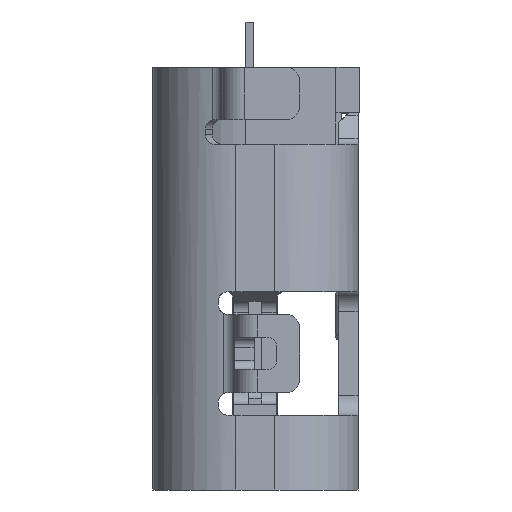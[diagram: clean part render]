
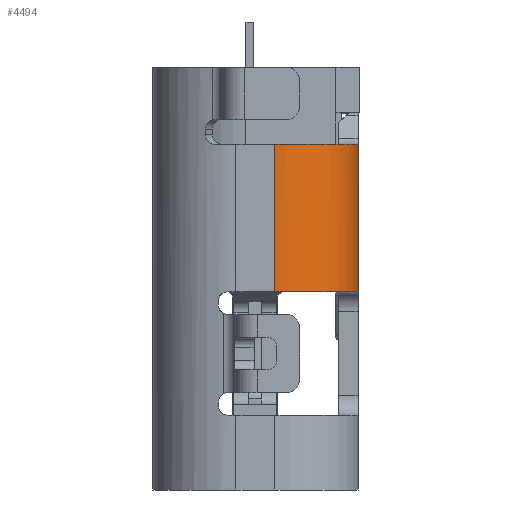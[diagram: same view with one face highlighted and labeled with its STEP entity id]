
A CAD part, left-side view. The second image highlights one B-rep face of the part: STEP entity #4494.
In plain terms, the highlighted cylindrical face has radius 1.28 mm (diameter 2.56 mm), a partial arc.
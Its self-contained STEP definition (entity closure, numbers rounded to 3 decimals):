
#191 = ORIENTED_EDGE ( 'NONE', *, *, #11314, .F. ) ;
#217 = DIRECTION ( 'NONE',  ( 0., 0., 1. ) ) ;
#621 = CARTESIAN_POINT ( 'NONE',  ( -4.145, -1.157, -5.388 ) ) ;
#933 = B_SPLINE_CURVE_WITH_KNOTS ( 'NONE', 3,
 ( #22131, #31201, #25469, #33616, #27876, #13797 ),
 .UNSPECIFIED., .F., .F.,
 ( 4, 2, 4 ),
 ( 0., 0.5, 1. ),
 .UNSPECIFIED. ) ;
#981 = CIRCLE ( 'NONE', #7449, 1.28 ) ;
#1531 = EDGE_CURVE ( 'NONE', #10261, #2401, #981, .T. ) ;
#2401 = VERTEX_POINT ( 'NONE', #27523 ) ;
#3170 = VERTEX_POINT ( 'NONE', #3754 ) ;
#3549 = CYLINDRICAL_SURFACE ( 'NONE', #8812, 1.28 ) ;
#3754 = CARTESIAN_POINT ( 'NONE',  ( -4.47, -0.305, -5.388 ) ) ;
#4178 = LINE ( 'NONE', #6950, #19488 ) ;
#4358 = CARTESIAN_POINT ( 'NONE',  ( -4.145, -1.157, -5.388 ) ) ;
#4494 = ADVANCED_FACE ( 'NONE', ( #18171 ), #3549, .T. ) ;
#5516 = ORIENTED_EDGE ( 'NONE', *, *, #35979, .T. ) ;
#6510 = DIRECTION ( 'NONE',  ( 0., 0., 1. ) ) ;
#6642 = EDGE_CURVE ( 'NONE', #13016, #2401, #4178, .T. ) ;
#6950 = CARTESIAN_POINT ( 'NONE',  ( -3.19, -1.585, -8.408 ) ) ;
#7449 = AXIS2_PLACEMENT_3D ( 'NONE', #9108, #6510, #31699 ) ;
#8571 = B_SPLINE_CURVE_WITH_KNOTS ( 'NONE', 3,
 ( #621, #35016, #12605, #15022 ),
 .UNSPECIFIED., .F., .F.,
 ( 4, 4 ),
 ( 0., 1. ),
 .UNSPECIFIED. ) ;
#8812 = AXIS2_PLACEMENT_3D ( 'NONE', #35380, #15016, #21323 ) ;
#8818 = EDGE_CURVE ( 'NONE', #13016, #35838, #933, .T. ) ;
#9108 = CARTESIAN_POINT ( 'NONE',  ( -3.19, -0.305, -7.658 ) ) ;
#10261 = VERTEX_POINT ( 'NONE', #11629 ) ;
#10432 = VECTOR ( 'NONE', #217, 1000. ) ;
#10921 = ORIENTED_EDGE ( 'NONE', *, *, #8818, .T. ) ;
#11305 = CARTESIAN_POINT ( 'NONE',  ( -4.47, -0.305, -7.108 ) ) ;
#11314 = EDGE_CURVE ( 'NONE', #10261, #3170, #19821, .T. ) ;
#11629 = CARTESIAN_POINT ( 'NONE',  ( -4.47, -0.305, -7.658 ) ) ;
#11892 = CARTESIAN_POINT ( 'NONE',  ( -4.059, -1.245, -5.388 ) ) ;
#12134 = B_SPLINE_CURVE_WITH_KNOTS ( 'NONE', 3,
 ( #29372, #26421, #23106, #29195 ),
 .UNSPECIFIED., .F., .F.,
 ( 4, 4 ),
 ( 0., 1. ),
 .UNSPECIFIED. ) ;
#12605 = CARTESIAN_POINT ( 'NONE',  ( -4.47, -0.616, -5.388 ) ) ;
#13016 = VERTEX_POINT ( 'NONE', #27478 ) ;
#13797 = CARTESIAN_POINT ( 'NONE',  ( -4.059, -1.245, -5.388 ) ) ;
#15016 = DIRECTION ( 'NONE',  ( 0., 0., -1. ) ) ;
#15022 = CARTESIAN_POINT ( 'NONE',  ( -4.47, -0.305, -5.388 ) ) ;
#18171 = FACE_OUTER_BOUND ( 'NONE', #18560, .T. ) ;
#18451 = DIRECTION ( 'NONE',  ( 0., 0., -1. ) ) ;
#18560 = EDGE_LOOP ( 'NONE', ( #10921, #32074, #5516, #191, #24211, #31062 ) ) ;
#19488 = VECTOR ( 'NONE', #18451, 1000. ) ;
#19821 = LINE ( 'NONE', #11305, #10432 ) ;
#21323 = DIRECTION ( 'NONE',  ( -1., 0., 0. ) ) ;
#22131 = CARTESIAN_POINT ( 'NONE',  ( -3.19, -1.585, -5.388 ) ) ;
#22645 = EDGE_CURVE ( 'NONE', #35838, #32405, #12134, .T. ) ;
#23106 = CARTESIAN_POINT ( 'NONE',  ( -4.118, -1.188, -5.388 ) ) ;
#24211 = ORIENTED_EDGE ( 'NONE', *, *, #1531, .T. ) ;
#25469 = CARTESIAN_POINT ( 'NONE',  ( -3.508, -1.555, -5.388 ) ) ;
#26421 = CARTESIAN_POINT ( 'NONE',  ( -4.089, -1.217, -5.388 ) ) ;
#27478 = CARTESIAN_POINT ( 'NONE',  ( -3.19, -1.585, -5.388 ) ) ;
#27523 = CARTESIAN_POINT ( 'NONE',  ( -3.19, -1.585, -7.658 ) ) ;
#27876 = CARTESIAN_POINT ( 'NONE',  ( -3.942, -1.353, -5.388 ) ) ;
#29195 = CARTESIAN_POINT ( 'NONE',  ( -4.145, -1.157, -5.388 ) ) ;
#29372 = CARTESIAN_POINT ( 'NONE',  ( -4.059, -1.245, -5.388 ) ) ;
#31062 = ORIENTED_EDGE ( 'NONE', *, *, #6642, .F. ) ;
#31201 = CARTESIAN_POINT ( 'NONE',  ( -3.349, -1.585, -5.388 ) ) ;
#31699 = DIRECTION ( 'NONE',  ( -1., 0., 0. ) ) ;
#32074 = ORIENTED_EDGE ( 'NONE', *, *, #22645, .T. ) ;
#32405 = VERTEX_POINT ( 'NONE', #4358 ) ;
#33616 = CARTESIAN_POINT ( 'NONE',  ( -3.805, -1.439, -5.388 ) ) ;
#35016 = CARTESIAN_POINT ( 'NONE',  ( -4.352, -0.925, -5.388 ) ) ;
#35380 = CARTESIAN_POINT ( 'NONE',  ( -3.19, -0.305, -6.108 ) ) ;
#35838 = VERTEX_POINT ( 'NONE', #11892 ) ;
#35979 = EDGE_CURVE ( 'NONE', #32405, #3170, #8571, .T. ) ;
